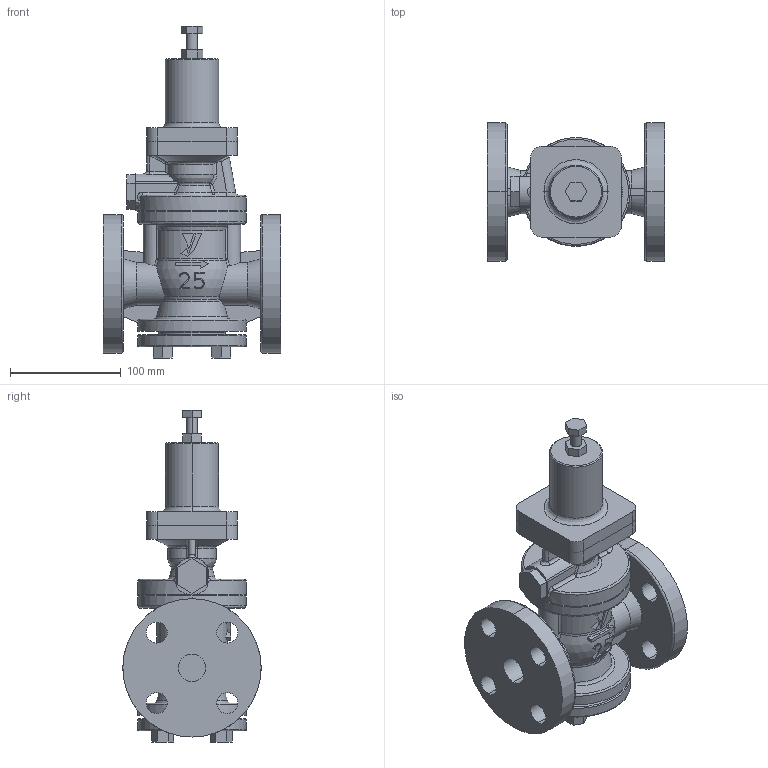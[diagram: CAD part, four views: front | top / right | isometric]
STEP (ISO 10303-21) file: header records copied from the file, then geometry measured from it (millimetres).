
FILE_DESCRIPTION( (''), '2;1');
FILE_NAME ('PC1015.12936.GP-1000(25A)JIS10K3D_24784.stp','2024-08-05T09:16:58',(''),(''),'spGate 19.8.4 (****-****-****-****)','','');
FILE_SCHEMA (('AUTOMOTIVE_DESIGN'));
Length unit declared in the file: millimetre
Products named in the file (5): Assembly; 本体25a; 上部カバー25a; 下部カバー25a; 保護筒
Assembly tree (4 placements, depth 2):
  Assembly
    本体25a
    上部カバー25a
    下部カバー25a
    保護筒
Bounding box: 160 x 125 x 300 mm (x, y, z)
Volume: 1529176.7 mm3; surface area: 212361.6 mm2
Topology: 4 solids, 4 shells, 318 faces, 802 edges, 509 vertices
Faces by surface type: plane 142, cylinder 86, bspline 79, sphere 11
Entity records: 18481 total; most frequent: CARTESIAN_POINT 4935, ORIENTED_EDGE 1596, DIRECTION 1325, COLOUR_RGB 1120, PRESENTATION_STYLE_ASSIGNMENT 1120, STYLED_ITEM 1120, EDGE_CURVE 798, DRAUGHTING_PRE_DEFINED_CURVE_FONT 798
